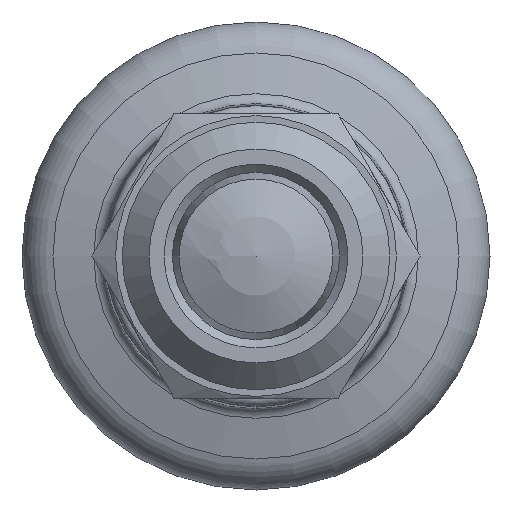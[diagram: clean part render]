
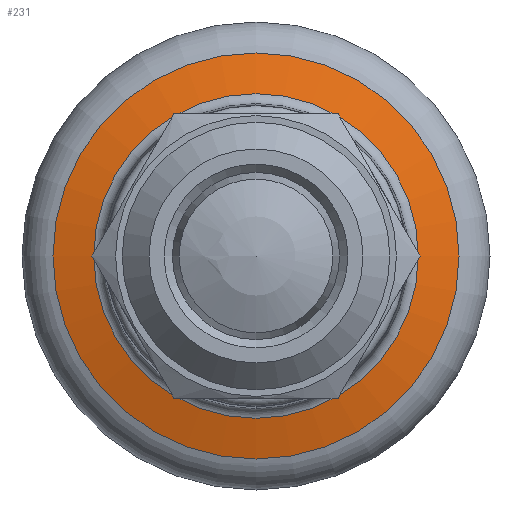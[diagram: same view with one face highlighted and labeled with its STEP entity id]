
A CAD part, front view. The second image highlights one B-rep face of the part: STEP entity #231.
In plain terms, the highlighted conical face has half-angle 75 degrees and reference radius 12.147 mm.
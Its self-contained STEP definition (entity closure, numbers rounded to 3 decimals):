
#231 = ADVANCED_FACE( '', ( #313, #314 ), #315, .T. );
#313 = FACE_BOUND( '', #450, .T. );
#314 = FACE_OUTER_BOUND( '', #451, .T. );
#315 = CONICAL_SURFACE( '', #452, 12.147, 1.309 );
#450 = EDGE_LOOP( '', ( #627 ) );
#451 = EDGE_LOOP( '', ( #628 ) );
#452 = AXIS2_PLACEMENT_3D( '', #629, #630, #631 );
#627 = ORIENTED_EDGE( '', *, *, #719, .F. );
#628 = ORIENTED_EDGE( '', *, *, #718, .T. );
#629 = CARTESIAN_POINT( '', ( 0., 61.504, 0. ) );
#630 = DIRECTION( '', ( 0., 1., 0. ) );
#631 = DIRECTION( '', ( 0., 0., 1. ) );
#718 = EDGE_CURVE( '', #794, #794, #795, .T. );
#719 = EDGE_CURVE( '', #796, #796, #797, .T. );
#794 = VERTEX_POINT( '', #1010 );
#795 = CIRCLE( '', #1011, 12.147 );
#796 = VERTEX_POINT( '', #1012 );
#797 = CIRCLE( '', #1013, 9.712 );
#1010 = CARTESIAN_POINT( '', ( 0., 61.504, -12.147 ) );
#1011 = AXIS2_PLACEMENT_3D( '', #1089, #1090, #1091 );
#1012 = CARTESIAN_POINT( '', ( 0., 60.851, -9.712 ) );
#1013 = AXIS2_PLACEMENT_3D( '', #1092, #1093, #1094 );
#1089 = CARTESIAN_POINT( '', ( 0., 61.504, 0. ) );
#1090 = DIRECTION( '', ( 0., -1., 0. ) );
#1091 = DIRECTION( '', ( 0., 0., -1. ) );
#1092 = CARTESIAN_POINT( '', ( 0., 60.851, 0. ) );
#1093 = DIRECTION( '', ( 0., -1., 0. ) );
#1094 = DIRECTION( '', ( 0., 0., -1. ) );
